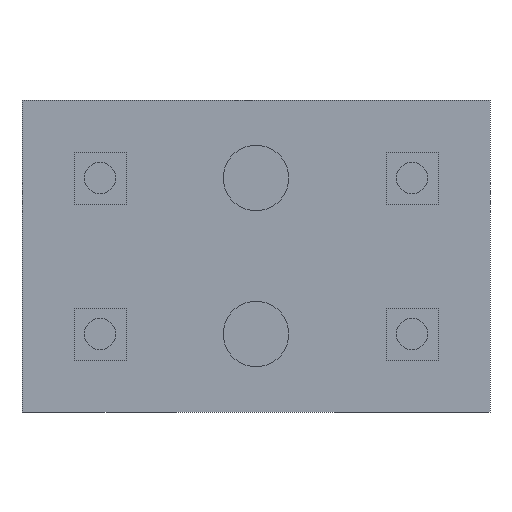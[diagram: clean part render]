
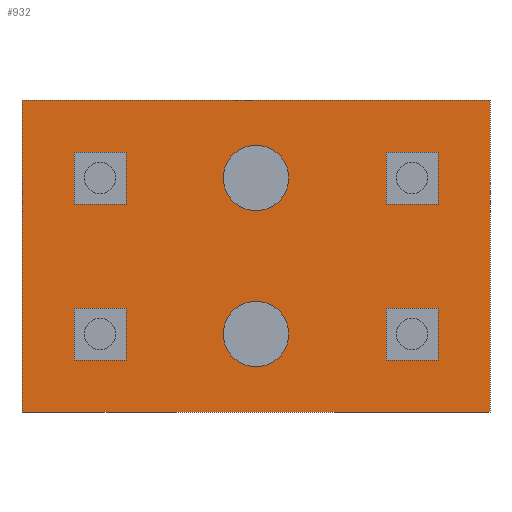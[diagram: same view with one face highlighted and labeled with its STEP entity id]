
A CAD part, front view. The second image highlights one B-rep face of the part: STEP entity #932.
In plain terms, the highlighted planar face has unit normal (0, -1, 0).
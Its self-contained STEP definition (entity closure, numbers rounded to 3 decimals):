
#123=CARTESIAN_POINT('',(-33.5,0.0,-15.));
#124=VERTEX_POINT('',#123);
#125=CARTESIAN_POINT('',(-30.,0.0,-15.));
#126=DIRECTION('',(0.0,1.0,0.0));
#127=DIRECTION('',(-1.0,0.0,0.0));
#128=AXIS2_PLACEMENT_3D('',#125,#126,#127);
#129=CIRCLE('',#128,3.5);
#130=EDGE_CURVE('',#124,#124,#129,.T.);
#172=CARTESIAN_POINT('',(33.5,0.0,-15.));
#173=VERTEX_POINT('',#172);
#174=CARTESIAN_POINT('',(30.,0.0,-15.));
#175=DIRECTION('',(0.0,1.0,0.0));
#176=DIRECTION('',(1.0,0.0,0.0));
#177=AXIS2_PLACEMENT_3D('',#174,#175,#176);
#178=CIRCLE('',#177,3.5);
#179=EDGE_CURVE('',#173,#173,#178,.T.);
#210=CARTESIAN_POINT('',(6.3,0.0,-15.));
#211=VERTEX_POINT('',#210);
#212=CARTESIAN_POINT('',(0.0,0.0,-15.));
#213=DIRECTION('',(0.0,1.0,0.0));
#214=DIRECTION('',(1.0,0.0,0.0));
#215=AXIS2_PLACEMENT_3D('',#212,#213,#214);
#216=CIRCLE('',#215,6.3);
#217=EDGE_CURVE('',#211,#211,#216,.T.);
#290=CARTESIAN_POINT('',(-33.5,0.0,15.));
#291=VERTEX_POINT('',#290);
#292=CARTESIAN_POINT('',(-30.,0.0,15.));
#293=DIRECTION('',(0.0,1.0,0.0));
#294=DIRECTION('',(-1.0,0.0,0.0));
#295=AXIS2_PLACEMENT_3D('',#292,#293,#294);
#296=CIRCLE('',#295,3.5);
#297=EDGE_CURVE('',#291,#291,#296,.T.);
#339=CARTESIAN_POINT('',(33.5,0.0,15.));
#340=VERTEX_POINT('',#339);
#341=CARTESIAN_POINT('',(30.,0.0,15.));
#342=DIRECTION('',(0.0,1.0,0.0));
#343=DIRECTION('',(1.0,0.0,0.0));
#344=AXIS2_PLACEMENT_3D('',#341,#342,#343);
#345=CIRCLE('',#344,3.5);
#346=EDGE_CURVE('',#340,#340,#345,.T.);
#377=CARTESIAN_POINT('',(6.3,0.0,15.));
#378=VERTEX_POINT('',#377);
#379=CARTESIAN_POINT('',(0.0,0.0,15.));
#380=DIRECTION('',(0.0,1.0,0.0));
#381=DIRECTION('',(1.0,0.0,0.0));
#382=AXIS2_PLACEMENT_3D('',#379,#380,#381);
#383=CIRCLE('',#382,6.3);
#384=EDGE_CURVE('',#378,#378,#383,.T.);
#446=CARTESIAN_POINT('',(45.,0.0,-30.));
#447=VERTEX_POINT('',#446);
#456=CARTESIAN_POINT('',(-45.,0.0,-30.));
#457=VERTEX_POINT('',#456);
#458=CARTESIAN_POINT('',(-45.,0.0,-30.));
#459=DIRECTION('',(1.0,0.0,0.0));
#460=VECTOR('',#459,90.);
#461=LINE('',#458,#460);
#462=EDGE_CURVE('',#457,#447,#461,.T.);
#566=CARTESIAN_POINT('',(-45.,0.0,30.));
#567=VERTEX_POINT('',#566);
#583=CARTESIAN_POINT('',(-45.,0.0,30.));
#584=DIRECTION('',(0.0,0.0,-1.0));
#585=VECTOR('',#584,60.);
#586=LINE('',#583,#585);
#587=EDGE_CURVE('',#567,#457,#586,.T.);
#879=CARTESIAN_POINT('',(45.,0.0,30.));
#880=VERTEX_POINT('',#879);
#887=CARTESIAN_POINT('',(45.,0.0,-30.));
#888=DIRECTION('',(0.0,0.0,1.0));
#889=VECTOR('',#888,60.);
#890=LINE('',#887,#889);
#891=EDGE_CURVE('',#447,#880,#890,.T.);
#898=CARTESIAN_POINT('',(45.,0.0,0.0));
#899=DIRECTION('',(0.0,-1.0,0.0));
#900=DIRECTION('',(0.0,0.0,-1.0));
#901=AXIS2_PLACEMENT_3D('',#898,#899,#900);
#902=PLANE('',#901);
#903=CARTESIAN_POINT('',(45.,0.0,30.));
#904=DIRECTION('',(-1.0,0.0,0.0));
#905=VECTOR('',#904,90.);
#906=LINE('',#903,#905);
#907=EDGE_CURVE('',#880,#567,#906,.T.);
#908=ORIENTED_EDGE('',*,*,#907,.T.);
#909=ORIENTED_EDGE('',*,*,#587,.T.);
#910=ORIENTED_EDGE('',*,*,#462,.T.);
#911=ORIENTED_EDGE('',*,*,#891,.T.);
#912=EDGE_LOOP('',(#908,#909,#910,#911));
#913=FACE_OUTER_BOUND('',#912,.T.);
#914=ORIENTED_EDGE('',*,*,#130,.T.);
#915=EDGE_LOOP('',(#914));
#916=FACE_BOUND('',#915,.T.);
#917=ORIENTED_EDGE('',*,*,#179,.T.);
#918=EDGE_LOOP('',(#917));
#919=FACE_BOUND('',#918,.T.);
#920=ORIENTED_EDGE('',*,*,#217,.T.);
#921=EDGE_LOOP('',(#920));
#922=FACE_BOUND('',#921,.T.);
#923=ORIENTED_EDGE('',*,*,#297,.T.);
#924=EDGE_LOOP('',(#923));
#925=FACE_BOUND('',#924,.T.);
#926=ORIENTED_EDGE('',*,*,#346,.T.);
#927=EDGE_LOOP('',(#926));
#928=FACE_BOUND('',#927,.T.);
#929=ORIENTED_EDGE('',*,*,#384,.T.);
#930=EDGE_LOOP('',(#929));
#931=FACE_BOUND('',#930,.T.);
#932=ADVANCED_FACE('',(#913,#916,#919,#922,#925,#928,#931),#902,.T.);
